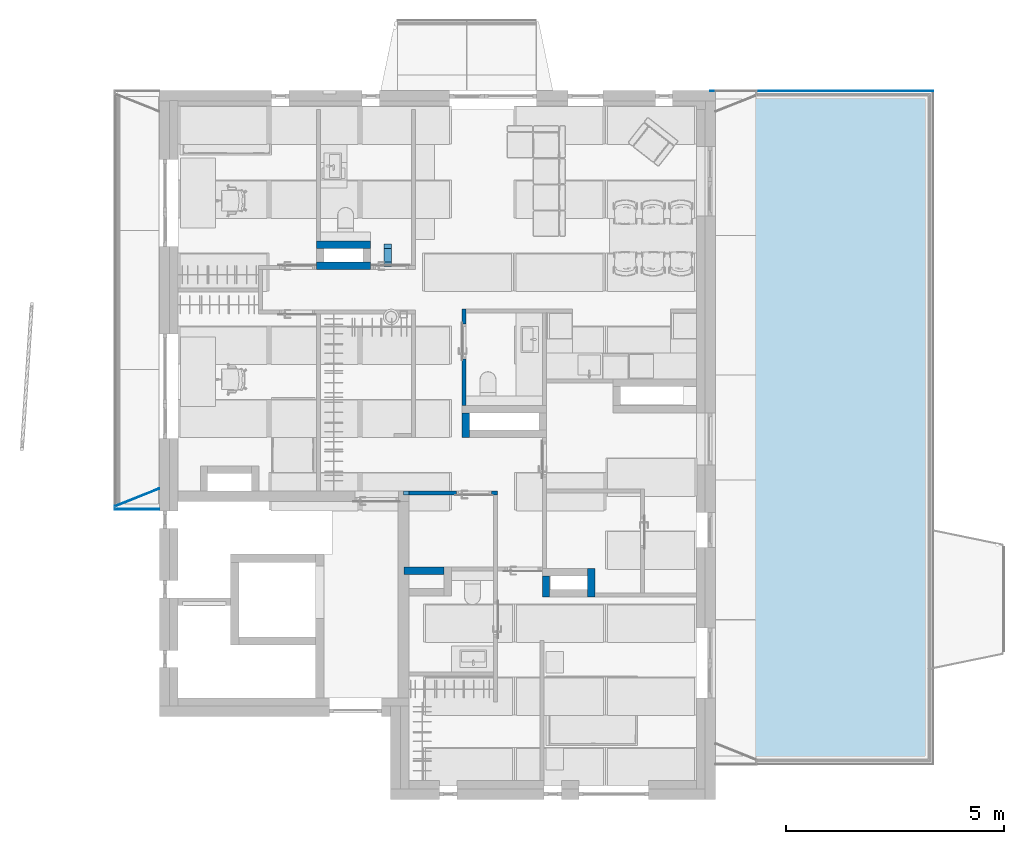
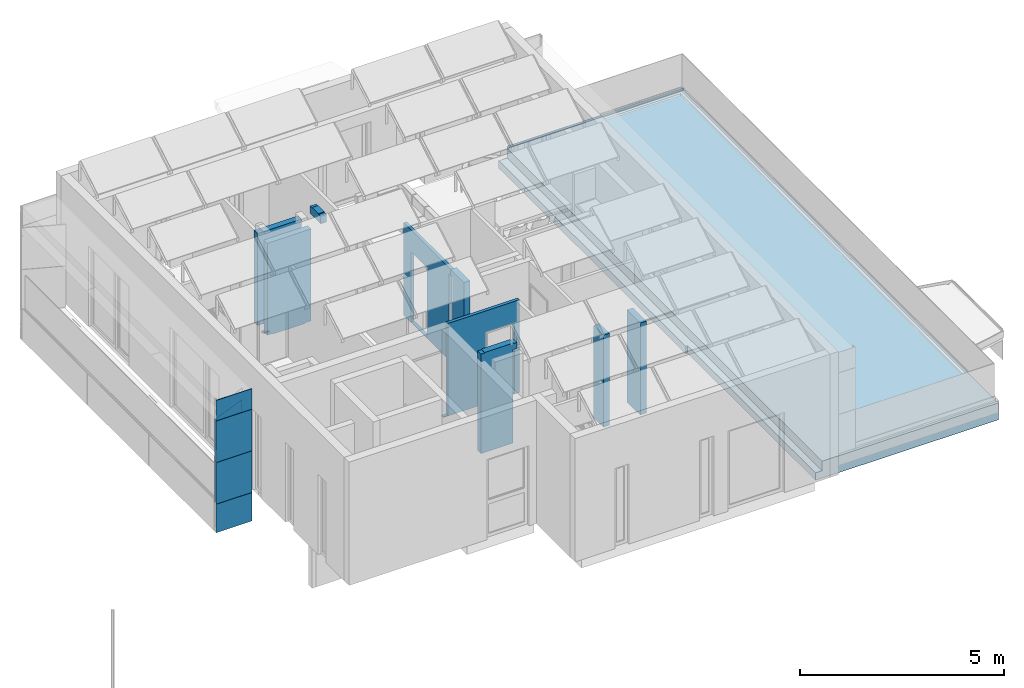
# One storey, part 7 of 57: 12 building element parts, 10 walls, 1 roof, 2 elements without a shape of their own.
"""IFC2X3 building model written with IfcOpenShell, lengths in millimetres."""

from ifc_helpers import new_model, entity, si_unit, converted_unit, direction, frame, frame_2d, origin, origin_2d_with_axis, place, context, subcontext, project, spatial, polyline, rectangle, outline, extrude, faceted_brep, material, layer, layer_set, type_object, element, aggregate, save


model = new_model("IFC2X3")

# Units and contexts
model_context = context("Model", 3, precision=0.01, world=origin(), true_north=direction((6.123233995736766e-17, 1.0)))
plan_context = context("Plan", 3, precision=0.01, world=origin(), true_north=direction((6.123233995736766e-17, 1.0)))
body_context = subcontext(model_context, "Body", "Model", "MODEL_VIEW")
ifc_project = project(units=[si_unit("LENGTHUNIT", "METRE", prefix="MILLI"), converted_unit("PLANEANGLEUNIT", "DEGREE", entity("IfcPlaneAngleMeasure", 0.017453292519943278), si_unit("PLANEANGLEUNIT", "RADIAN"), dimensions=[0, 0, 0, 0, 0, 0, 0]), si_unit("AREAUNIT", "SQUARE_METRE")], contexts=[model_context, plan_context])

# Site, building, storey
site_placement = place(None, origin())
site = spatial("IfcSite", under=ifc_project, at=site_placement, Name="Default", CompositionType="ELEMENT")
building_placement = place(site_placement, origin())
building = spatial("IfcBuilding", under=site, at=building_placement, CompositionType="ELEMENT")
storey_placement = place(building_placement, frame((0.0, 0.0, 12811.000000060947)))
storey = spatial("IfcBuildingStorey", under=building, at=storey_placement, Name="5K", CompositionType="ELEMENT", Elevation=12811.000000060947)

# Walls
ifc_material_1 = material(Name="_K. Ehitusplaat. Kipsplaat. Erikõva")
ifc_layer_1 = layer(ifc_material_1, 13.000000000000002)
ifc_material_2 = material(Name="_K. Soojustus. Mineraalvill")
ifc_layer_2 = layer(ifc_material_2, 66.0)
ifc_layer_3 = layer(ifc_material_1, 13.000000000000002)
ifc_layer_set_1 = layer_set([ifc_layer_1, ifc_layer_2, ifc_layer_3], Name="Basic Wall:SS-401")
wall_type_1 = type_object("IfcWallType", Name="Basic Wall:SS-401", PredefinedType="STANDARD", material=ifc_layer_set_1)
wall_1_placement = place(storey_placement, frame((6566.0, 8525.0, -20.0), z_axis=(0.0, 0.0, 1.0), x_axis=(0.0, 1.0, 0.0)))
element("IfcWall", 1, at=wall_1_placement, inside=storey, type_object=wall_type_1, Name="Basic Wall:SS-401", ObjectType="Basic Wall:SS-401", context=body_context, shape_type="Brep", body=[
    faceted_brep([(85.0, -46.0, 0.0), (2208.0, -46.0, 0.0), (2300.0, -46.0, 0.0), (2300.0, -46.0, 2594.0), (2300.0, -46.0, 2769.998712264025), (0.0, -46.0, 2769.998712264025), (0.0, -46.0, 2593.999923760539), (85.0, -46.0, 2593.999923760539), (1950.0, -46.0, 2120.0), (1950.0, -46.0, 20.0), (1150.0, -46.0, 20.0), (1150.0, -46.0, 2120.0), (2300.0, 46.0, 0.0), (85.0, 46.0, 0.0), (85.0, 46.0, 20.0), (85.0, 46.0, 2593.999923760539), (0.0, 46.0, 2593.999923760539), (0.0, 46.0, 2769.998712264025), (2300.0, 46.0, 2769.998712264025), (1950.0, 46.0, 20.0), (1950.0, 46.0, 2120.0), (1150.0, 46.0, 2120.0), (1150.0, 46.0, 20.0)], [[[0, 1, 2, 3, 4, 5, 6, 7], [8, 9, 10, 11]], [[12, 13, 14, 15, 16, 17, 18], [19, 20, 21, 22]], [[2, 1, 0, 13, 12]], [[5, 4, 18, 17]], [[4, 3, 2, 12, 18]], [[8, 20, 19, 9]], [[9, 19, 22, 10]], [[10, 22, 21, 11]], [[20, 8, 11, 21]], [[5, 17, 16, 6]], [[6, 16, 15, 7]], [[13, 0, 7, 15, 14]]]),
])
wall_2_placement = place(storey_placement, frame((5174.9950608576, 6598.9999594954, -20.0)))
element("IfcWall", 2, at=wall_2_placement, inside=storey, type_object=wall_type_1, Name="Basic Wall:SS-401", ObjectType="Basic Wall:SS-401", context=body_context, shape_type="Brep", body=[
    faceted_brep([(0.0, -46.0, 0.0), (2065.0049391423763, -46.0, 0.0), (2157.004939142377, -46.0, 0.0), (2157.0049391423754, -46.0, 2769.998712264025), (2065.0049391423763, -46.0, 2769.998712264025), (125.0, -46.0, 2769.998712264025), (125.0, -46.0, 20.0), (0.0, -46.0, 20.0), (1215.0049391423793, -46.0, 20.0), (1215.0049391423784, -46.0, 2120.0), (2015.0049391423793, -46.0, 2120.0), (2015.0049391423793, -46.0, 20.0), (2157.004939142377, 46.0, 0.0), (0.0, 46.0, 0.0), (0.0, 46.0, 20.0), (125.0, 46.0, 20.0), (125.0, 46.0, 2769.998712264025), (2157.004939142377, 46.0, 2769.998712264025), (1215.0049391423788, 46.0, 2120.0), (1215.0049391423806, 46.0, 20.0), (2015.0049391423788, 46.0, 20.0), (2015.0049391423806, 46.0, 2120.0)], [[[0, 1, 2, 3, 4, 5, 6, 7], [8, 9, 10, 11]], [[12, 13, 14, 15, 16, 17], [18, 19, 20, 21]], [[2, 1, 0, 13, 12]], [[5, 4, 3, 17, 16]], [[3, 2, 12, 17]], [[18, 9, 8, 19]], [[19, 8, 11, 20]], [[20, 11, 10, 21]], [[9, 18, 21, 10]], [[13, 0, 7, 14]], [[15, 14, 7, 6]], [[5, 16, 15, 6]]]),
])
ifc_material_3 = material(Name="_K. Väisviimistlus. Krohv. Valge")
ifc_layer_4 = layer(ifc_material_3, 10.0)
ifc_material_4 = material(Name="_K. Müüritis. Väikeplokk. Kergkruusplokk")
ifc_layer_5 = layer(ifc_material_4, 150.0)
ifc_layer_6 = layer(ifc_material_3, 10.0)
ifc_layer_set_2 = layer_set([ifc_layer_4, ifc_layer_5, ifc_layer_6], Name="Basic Wall:SS-03. Šahti sein")
wall_type_2 = type_object("IfcWallType", Name="Basic Wall:SS-03. Šahti sein", PredefinedType="STANDARD", material=ifc_layer_set_2)
wall_3_placement = place(storey_placement, frame((3180.0, 12295.0, -20.0)))
element("IfcWall", 3, at=wall_3_placement, inside=storey, type_object=wall_type_2, Name="Basic Wall:SS-03. Šahti sein", ObjectType="Basic Wall:SS-03. Šahti sein", context=body_context, shape_type="Brep", body=[
    faceted_brep([(1240.0, -85.0, 2769.998712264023), (0.0, -85.0, 2769.998712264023), (0.0, -85.0, 20.000076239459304), (170.0, -85.0, 20.000076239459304), (170.0, -85.0, 0.0), (1070.0, -85.0, 0.0), (1070.0, -85.0, 20.000076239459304), (1240.0, -85.0, 20.000076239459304), (0.0, 85.0, 2769.998712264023), (92.0, 85.0, 2769.998712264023), (1240.0, 85.0, 2769.998712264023), (1240.0, 85.0, 20.000076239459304), (1070.0, 85.0, 20.000076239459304), (1070.0, 85.0, 0.0), (170.0, 85.0, 0.0), (170.0, 85.0, 20.000076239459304), (0.0, 85.0, 20.000076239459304)], [[[0, 1, 2, 3, 4, 5, 6, 7]], [[8, 9, 10, 11, 12, 13, 14, 15, 16]], [[1, 0, 10, 9, 8]], [[7, 6, 12, 11]], [[12, 6, 5, 13]], [[0, 7, 11, 10]], [[16, 15, 3, 2]], [[3, 15, 14, 4]], [[2, 1, 8, 16]], [[5, 4, 14, 13]]]),
])
wall_4_placement = place(storey_placement, frame((4815.0, 12315.0, 2750.0), z_axis=(0.0, 0.0, 1.0), x_axis=(0.0, -1.0, 0.0)))
element("IfcWall", 4, at=wall_4_placement, inside=storey, type_object=wall_type_2, Name="Basic Wall:SS-03. Šahti sein", ObjectType="Basic Wall:SS-03. Šahti sein", context=body_context, shape_type="Brep", body=[
    faceted_brep([(0.0, -85.0, 0.0), (520.0, -85.0, 0.0), (520.0, -85.0, 224.99871226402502), (415.0, -85.0, 224.99871226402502), (415.0, -85.0, 244.0), (105.0, -85.0, 244.0), (105.0, -85.0, 224.99871226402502), (0.0, -85.0, 224.99871226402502), (0.0, 85.0, 0.0), (0.0, 85.0, 224.99871226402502), (105.0, 85.0, 224.99871226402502), (105.0, 85.0, 244.0), (415.0, 85.0, 244.0), (415.0, 85.0, 224.99871226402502), (520.0, 85.0, 224.99871226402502), (520.0, 85.0, 0.0)], [[[0, 1, 2, 3, 4, 5, 6, 7]], [[8, 9, 10, 11, 12, 13, 14, 15]], [[1, 0, 8, 15]], [[5, 4, 12, 11]], [[0, 7, 9, 8]], [[6, 10, 9, 7]], [[6, 5, 11, 10]], [[2, 1, 15, 14]], [[13, 3, 2, 14]], [[4, 3, 13, 12]]]),
])
wall_5_placement = place(storey_placement, frame((3180.0, 11815.0, -20.0)))
element("IfcWall", 5, at=wall_5_placement, inside=storey, type_object=wall_type_2, Name="Basic Wall:SS-03. Šahti sein", ObjectType="Basic Wall:SS-03. Šahti sein", context=body_context, shape_type="Brep", body=[
    faceted_brep([(1240.0, -85.0, 2769.998712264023), (0.0, -85.0, 2769.998712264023), (0.0, -85.0, 20.000076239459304), (170.0, -85.0, 20.000076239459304), (170.0, -85.0, 0.0), (1070.0, -85.0, 0.0), (1070.0, -85.0, 20.000076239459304), (1240.0, -85.0, 20.000076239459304), (1240.0, -85.0, 2594.0), (0.0, 85.0, 2769.998712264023), (1240.0, 85.0, 2769.998712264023), (1240.0, 85.0, 20.000076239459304), (1070.0, 85.0, 20.000076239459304), (1070.0, 85.0, 0.0), (170.0, 85.0, 0.0), (170.0, 85.0, 20.000076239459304), (0.0, 85.0, 20.000076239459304), (0.0, 7.0, 2769.998712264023)], [[[0, 1, 2, 3, 4, 5, 6, 7, 8]], [[9, 10, 11, 12, 13, 14, 15, 16]], [[1, 0, 10, 9, 17]], [[7, 6, 12, 11]], [[12, 6, 5, 13]], [[7, 11, 10, 0, 8]], [[16, 15, 3, 2]], [[3, 15, 14, 4]], [[5, 4, 14, 13]], [[16, 2, 1, 17, 9]]]),
])
wall_6_placement = place(storey_placement, frame((6605.0, 8525.0, 0.0), z_axis=(0.0, 0.0, 1.0), x_axis=(0.0, -1.0, 0.0)))
element("IfcWall", 6, at=wall_6_placement, inside=storey, type_object=wall_type_2, Name="Basic Wall:SS-03. Šahti sein", ObjectType="Basic Wall:SS-03. Šahti sein", context=body_context, shape_type="Brep", body=[
    faceted_brep([(85.0, -85.0, 0.0), (655.0, -85.0, 0.0), (655.0, -85.0, 2749.998712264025), (0.0, -85.0, 2749.998712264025), (0.0, -85.0, 2573.999923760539), (85.0, -85.0, 2573.999923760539), (85.0, 85.0, 0.0), (85.0, 85.0, 2573.999923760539), (0.0, 85.0, 2573.999923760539), (0.0, 85.0, 2749.998712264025), (485.0, 85.0, 2749.998712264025), (655.0, 85.0, 2749.998712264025), (655.0, 85.0, 0.0), (485.0, 85.0, 0.0), (0.0, 7.0, 2749.998712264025), (0.0, 7.0, 2573.999923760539)], [[[0, 1, 2, 3, 4, 5]], [[6, 7, 8, 9, 10, 11, 12, 13]], [[1, 0, 6, 13, 12]], [[3, 2, 11, 10, 9, 14]], [[4, 3, 14, 9, 8, 15]], [[4, 15, 8, 7, 5]], [[0, 5, 7, 6]], [[2, 1, 12, 11]]]),
])
wall_7_placement = place(storey_placement, frame((9485.0, 4870.0, -20.0), z_axis=(0.0, 0.0, 1.0), x_axis=(0.0, -1.0, 0.0)))
element("IfcWall", 7, at=wall_7_placement, inside=storey, type_object=wall_type_2, Name="Basic Wall:SS-03. Šahti sein", ObjectType="Basic Wall:SS-03. Šahti sein", context=body_context, shape_type="Brep", body=[
    faceted_brep([(660.0, -85.0, 2769.998712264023), (170.0, -85.0, 2769.998712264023), (0.0, -85.0, 2769.998712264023), (0.0, -85.0, 0.0), (170.0, -85.0, 0.0), (490.0, -85.0, 0.0), (490.0, -85.0, 20.000076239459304), (660.0, -85.0, 20.000076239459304), (0.0, 85.0, 2769.998712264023), (568.0, 85.0, 2769.998712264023), (660.0, 85.0, 2769.998712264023), (660.0, 85.0, 20.000076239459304), (490.0, 85.0, 20.000076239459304), (490.0, 85.0, 0.0), (0.0, 85.0, 0.0)], [[[0, 1, 2, 3, 4, 5, 6, 7]], [[8, 9, 10, 11, 12, 13, 14]], [[2, 1, 0, 10, 9, 8]], [[7, 6, 12, 11]], [[12, 6, 5, 13]], [[7, 11, 10, 0]], [[2, 8, 14, 3]], [[5, 4, 3, 14, 13]]]),
])
wall_8_placement = place(storey_placement, frame((8443.0, 4700.0, -20.0), z_axis=(0.0, 0.0, 1.0), x_axis=(0.0, -1.0, 0.0)))
element("IfcWall", 8, at=wall_8_placement, inside=storey, type_object=wall_type_2, Name="Basic Wall:SS-03. Šahti sein", ObjectType="Basic Wall:SS-03. Šahti sein", context=body_context, shape_type="Brep", body=[
    faceted_brep([(490.0, -85.0, 2769.998712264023), (0.0, -85.0, 2769.998712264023), (0.0, -85.0, 0.0), (320.0, -85.0, 0.0), (320.0, -85.0, 20.000076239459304), (490.0, -85.0, 20.000076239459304), (0.0, 85.0, 2769.998712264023), (490.0, 85.0, 2769.998712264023), (490.0, 85.0, 20.000076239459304), (320.0, 85.0, 20.000076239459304), (320.0, 85.0, 0.0), (0.0, 85.0, 0.0)], [[[0, 1, 2, 3, 4, 5]], [[6, 7, 8, 9, 10, 11]], [[1, 0, 7, 6]], [[5, 4, 9, 8]], [[9, 4, 3, 10]], [[5, 8, 7, 0]], [[3, 2, 11, 10]], [[1, 6, 11, 2]]]),
])
wall_9_placement = place(storey_placement, frame((5189.997197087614, 4815.0, 0.0)))
element("IfcWall", 9, at=wall_9_placement, inside=storey, type_object=wall_type_2, Name="Basic Wall:SS-03. Šahti sein", ObjectType="Basic Wall:SS-03. Šahti sein", context=body_context, shape_type="Brep", body=[
    faceted_brep([(0.0, -85.0, 0.0), (109.99786376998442, -85.0, 0.0), (910.0, -85.0, 0.0), (910.0, -85.0, 2793.9987344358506), (1015.0, -85.0, 2793.9987344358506), (1015.0, -85.0, 2974.998712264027), (910.0, -85.0, 2974.998712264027), (910.0, -85.0, 2994.0), (105.0, -85.0, 2994.0), (105.0, -85.0, 2974.998712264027), (0.0, -85.0, 2974.998712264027), (0.0, 85.0, 0.0), (0.0, 85.0, 2974.998712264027), (105.0, 85.0, 2974.998712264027), (105.0, 85.0, 2994.0), (910.0, 85.0, 2994.0), (910.0, 85.0, 2974.998712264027), (1015.0, 85.0, 2974.998712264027), (1015.0, 85.0, 2793.9987344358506), (910.0, 85.0, 2793.9987344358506), (910.0, 85.0, 2749.998712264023), (910.0, 85.0, 0.0), (109.99786376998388, 85.0, 0.0)], [[[0, 1, 2, 3, 4, 5, 6, 7, 8, 9, 10]], [[11, 12, 13, 14, 15, 16, 17, 18, 19, 20, 21, 22]], [[2, 1, 0, 11, 22, 21]], [[8, 7, 15, 14]], [[0, 10, 12, 11]], [[9, 13, 12, 10]], [[9, 8, 14, 13]], [[18, 4, 3, 19]], [[5, 4, 18, 17]], [[16, 6, 5, 17]], [[3, 2, 21, 20, 19]], [[7, 6, 16, 15]]]),
])
ifc_layer_7 = layer(ifc_material_3, 10.0)
ifc_layer_set_3 = layer_set([ifc_layer_7], Name="Basic Wall:VS-01 krohv")
wall_type_3 = type_object("IfcWallType", Name="Basic Wall:VS-01 krohv", PredefinedType="STANDARD", material=ifc_layer_set_3)
wall_10_placement = place(storey_placement, frame((12210.0, 15825.0, -375.625832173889)))
element("IfcWall", 10, at=wall_10_placement, inside=storey, type_object=wall_type_3, Name="Basic Wall:VS-01 krohv", ObjectType="Basic Wall:VS-01 krohv", context=body_context, shape_type="Brep", body=[
    faceted_brep([(0.0, -5.0, 0.0), (5110.0, -5.0, 0.0), (5120.0, -5.0, 0.0), (5120.0, -5.0, 350.625832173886), (5110.0, -5.0, 350.625832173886), (120.0, -5.0, 350.625832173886), (120.0, -5.0, 4.62597707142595), (0.0, -5.0, 4.62597707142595), (0.0, 5.0, 0.0), (0.0, 5.0, 4.62597707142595), (120.0, 5.0, 4.62597707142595), (120.0, 5.0, 350.625832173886), (5120.0, 5.0, 350.625832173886), (5120.0, 5.0, 0.0)], [[[0, 1, 2, 3, 4, 5, 6, 7]], [[8, 9, 10, 11, 12, 13]], [[2, 1, 0, 8, 13]], [[5, 4, 3, 12, 11]], [[0, 7, 9, 8]], [[6, 10, 9, 7]], [[6, 5, 11, 10]], [[3, 2, 13, 12]]]),
])

# Roof
ifc_material_5 = material(Name="_K. Katusekate. Rullmaterjal. PVC(1)")
ifc_layer_8 = layer(ifc_material_5, 2.0)
ifc_material_6 = material(Name="_K. Betoon. Armeeritud. Kohtvalu")
ifc_layer_9 = layer(ifc_material_6, 80.0)
ifc_material_7 = material(Name="_K. Soojustus. EPS")
ifc_layer_10 = layer(ifc_material_7, 50.0)
ifc_layer_11 = layer(ifc_material_7, 150.0)
ifc_material_8 = material(Name="_K. Aurutõke. Rullmaterjal. SBS")
ifc_layer_12 = layer(ifc_material_8, 5.0)
ifc_material_9 = material(Name="_K. Betoon. Armeeritud. Monteeritav")
ifc_layer_13 = layer(ifc_material_9, 220.0)
ifc_layer_set_4 = layer_set([ifc_layer_8, ifc_layer_9, ifc_layer_10, ifc_layer_11, ifc_layer_12, ifc_layer_13], Name="Basic Roof:KL-02")
type_product = type_object("IfcTypeProduct", Name="Basic Roof:KL-02")
roof_placement = place(storey_placement, frame((12089.993534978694, 380.0, -595.9998551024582)))
element("IfcRoof", 11, at=roof_placement, inside=storey, type_object=type_product, material=ifc_layer_set_4, Name="Basic Roof:KL-02", ObjectType="Basic Roof:KL-02", ShapeType="NOTDEFINED", context=body_context, shape_type="Brep", body=[
    faceted_brep([(0.0, 15440.0, 0.0), (5230.00646502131, 15440.0, 0.0), (5230.00646502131, 0.0, 0.0), (55.0, 0.0, 0.0), (55.0, 6264.999959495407, 0.0), (0.0, 6264.999959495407, 0.0), (5230.00646502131, 0.0, 507.0), (5230.00646502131, 15440.0, 507.0), (240.0064650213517, 15440.0, 507.0), (240.00646502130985, 0.0, 507.0), (0.0, 15440.0, 225.0), (240.0064650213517, 15440.0, 225.0), (55.0, 0.0, 225.0), (55.0, 325.0, 225.0), (55.0, 6024.999959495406, 225.0), (55.0, 6264.999959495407, 225.0), (240.00646502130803, 0.0, 225.0), (0.0, 6264.999959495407, 225.0)], [[[0, 1, 2, 3, 4, 5]], [[6, 7, 8, 9]], [[1, 0, 10, 11, 8, 7]], [[4, 3, 12, 13, 14, 15]], [[3, 2, 6, 9, 16, 12]], [[2, 1, 7, 6]], [[0, 5, 17, 10]], [[5, 4, 15, 17]], [[11, 16, 9, 8]], [[16, 11, 10, 17, 15, 14, 13, 12]]]),
])

# Wall, building element parts
wall_type_4 = type_object("IfcWallType", Name="Basic Wall:VS-komposiit", PredefinedType="STANDARD")
wall_11_placement = place(storey_placement, frame((-433.7143336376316, 6698.9415262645, -946.0), z_axis=(0.0, 0.0, 1.0), x_axis=(-0.9284596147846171, -0.37143336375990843, 0.0)))
wall_11 = element("IfcWall", 12, at=wall_11_placement, inside=storey, type_object=wall_type_4, Name="Basic Wall:VS-komposiit", ObjectType="Basic Wall:VS-komposiit")
ifc_material_10 = material(Name="_K. Õhk. Roov. Fassaadikatte alusroov. Horisontaalne. 25 mm")
building_element_part_1_placement = place(wall_11_placement, origin())
building_element_part_1 = element("IfcBuildingElementPart", 13, at=building_element_part_1_placement, material=ifc_material_10, Name="Part", context=body_context, shape_type="SweptSolid", body=[
    extrude(outline(polyline([(194.21632521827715, -507.01426654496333), (211.4491695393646, -507.01426654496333), (-195.4050704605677, 509.98573345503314), (-210.2604242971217, 504.0427996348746), (194.21632521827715, -507.01426654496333)])), frame((546.0811202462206, 2.0, 2101.0), z_axis=(0.0, 0.0, 1.0), x_axis=(0.37143336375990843, 0.9284596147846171, 0.0)), (0.0, 0.0, 1.0), 1240.0000000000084),
])
building_element_part_2_placement = place(wall_11_placement, origin())
building_element_part_2 = element("IfcBuildingElementPart", 14, at=building_element_part_2_placement, material=ifc_material_10, Name="Part", context=body_context, shape_type="SweptSolid", body=[
    extrude(outline(polyline([(194.2163252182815, -507.01426654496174), (211.44916953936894, -507.01426654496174), (-195.4050704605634, 509.98573345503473), (-210.26042429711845, 504.0427996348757), (194.2163252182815, -507.01426654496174)])), frame((546.0811202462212, 2.0, 856.0), z_axis=(0.0, 0.0, 1.0), x_axis=(0.37143336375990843, 0.9284596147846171, 0.0)), (0.0, 0.0, 1.0), 1240.0000000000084),
])
ifc_material_11 = material(Name="_K. Välisviimistlus. Alumiinium-komposiitplaat")
building_element_part_3_placement = place(wall_11_placement, origin())
building_element_part_3 = element("IfcBuildingElementPart", 15, at=building_element_part_3_placement, material=ifc_material_11, Name="Part", context=body_context, shape_type="SweptSolid", body=[
    extrude(outline(polyline([(200.7357827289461, -507.15709972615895), (205.0439938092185, -507.15709972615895), (-201.0329690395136, 507.8999664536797), (-204.74680749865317, 506.414232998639), (200.7357827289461, -507.15709972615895)])), frame((546.234959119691, -8.0, 2101.0), z_axis=(0.0, 0.0, 1.0), x_axis=(0.37143336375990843, 0.9284596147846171, 0.0)), (0.0, 0.0, 1.0), 1240.0000000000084),
])
building_element_part_4_placement = place(wall_11_placement, origin())
building_element_part_4 = element("IfcBuildingElementPart", 16, at=building_element_part_4_placement, material=ifc_material_11, Name="Part", context=body_context, shape_type="SweptSolid", body=[
    extrude(outline(polyline([(200.73578272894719, -507.15709972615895), (205.0439938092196, -507.15709972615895), (-201.03296903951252, 507.8999664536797), (-204.7468074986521, 506.414232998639), (200.73578272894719, -507.15709972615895)])), frame((546.2349591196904, -8.0, 856.0), z_axis=(0.0, 0.0, 1.0), x_axis=(0.37143336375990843, 0.9284596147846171, 0.0)), (0.0, 0.0, 1.0), 1240.0000000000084),
])
aggregate(wall_11, [building_element_part_1, building_element_part_2, building_element_part_3, building_element_part_4])

wall_12_placement = place(storey_placement, frame((-1451.0, 6227.983411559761, -945.9999237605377)))
wall_12 = element("IfcWall", 17, at=wall_12_placement, inside=storey, type_object=wall_type_4, Name="Basic Wall:VS-komposiit", ObjectType="Basic Wall:VS-komposiit")
building_element_part_5_placement = place(wall_12_placement, origin())
building_element_part_5 = element("IfcBuildingElementPart", 18, at=building_element_part_5_placement, material=ifc_material_11, Name="Part", context=body_context, shape_type="SweptSolid", body=[
    extrude(rectangle(XDim=4.000000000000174, YDim=1015.9999999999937, at=frame_2d((-5.415667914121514e-13, 1.4210854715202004e-13), x_axis=(1.0, 0.0))), frame((508.0, -8.0, 0.0), z_axis=(0.0, 0.0, 1.0), x_axis=(0.0, -1.0, 0.0)), (0.0, 0.0, 1.0), 850.9999237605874),
])
building_element_part_6_placement = place(wall_12_placement, origin())
building_element_part_6 = element("IfcBuildingElementPart", 19, at=building_element_part_6_placement, material=ifc_material_10, Name="Part", context=body_context, shape_type="SweptSolid", body=[
    extrude(rectangle(XDim=15.999999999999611, YDim=1011.9999999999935, at=frame_2d((0.0, 1.4210854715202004e-13), x_axis=(1.0, 0.0))), frame((510.0, 2.0, 0.0), z_axis=(0.0, 0.0, 1.0), x_axis=(0.0, -1.0, 0.0)), (0.0, 0.0, 1.0), 850.9999237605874),
])
building_element_part_7_placement = place(wall_12_placement, origin())
building_element_part_7 = element("IfcBuildingElementPart", 20, at=building_element_part_7_placement, material=ifc_material_10, Name="Part", context=body_context, shape_type="SweptSolid", body=[
    extrude(rectangle(XDim=15.999999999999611, YDim=1011.9999999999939, at=origin_2d_with_axis()), frame((510.0, 2.0, 855.9999237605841), z_axis=(0.0, 0.0, 1.0), x_axis=(0.0, -1.0, 0.0)), (0.0, 0.0, 1.0), 1240.000000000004),
])
building_element_part_8_placement = place(wall_12_placement, origin())
building_element_part_8 = element("IfcBuildingElementPart", 21, at=building_element_part_8_placement, material=ifc_material_10, Name="Part", context=body_context, shape_type="SweptSolid", body=[
    extrude(rectangle(XDim=15.999999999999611, YDim=1011.9999999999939, at=frame_2d((0.0, -1.4210854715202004e-13), x_axis=(1.0, 0.0))), frame((510.0, 2.0, 3345.9999237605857), z_axis=(0.0, 0.0, 1.0), x_axis=(0.0, -1.0, 0.0)), (0.0, 0.0, 1.0), 614.999999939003),
])
building_element_part_9_placement = place(wall_12_placement, origin())
building_element_part_9 = element("IfcBuildingElementPart", 22, at=building_element_part_9_placement, material=ifc_material_10, Name="Part", context=body_context, shape_type="SweptSolid", body=[
    extrude(rectangle(XDim=15.999999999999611, YDim=1011.9999999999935, at=frame_2d((0.0, 1.4210854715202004e-13), x_axis=(1.0, 0.0))), frame((510.0, 2.0, 2100.999923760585), z_axis=(0.0, 0.0, 1.0), x_axis=(0.0, -1.0, 0.0)), (0.0, 0.0, 1.0), 1240.000000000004),
])
building_element_part_10_placement = place(wall_12_placement, origin())
building_element_part_10 = element("IfcBuildingElementPart", 23, at=building_element_part_10_placement, material=ifc_material_11, Name="Part", context=body_context, shape_type="SweptSolid", body=[
    extrude(rectangle(XDim=4.000000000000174, YDim=1015.9999999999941, at=frame_2d((-5.415667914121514e-13, 0.0), x_axis=(1.0, 0.0))), frame((508.0, -8.0, 855.9999237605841), z_axis=(0.0, 0.0, 1.0), x_axis=(0.0, -1.0, 0.0)), (0.0, 0.0, 1.0), 1240.000000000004),
])
building_element_part_11_placement = place(wall_12_placement, origin())
building_element_part_11 = element("IfcBuildingElementPart", 24, at=building_element_part_11_placement, material=ifc_material_11, Name="Part", context=body_context, shape_type="SweptSolid", body=[
    extrude(rectangle(XDim=4.000000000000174, YDim=1015.9999999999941, at=frame_2d((-5.415667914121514e-13, -1.4210854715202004e-13), x_axis=(1.0, 0.0))), frame((508.0, -8.0, 3345.9999237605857), z_axis=(0.0, 0.0, 1.0), x_axis=(0.0, -1.0, 0.0)), (0.0, 0.0, 1.0), 614.999999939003),
])
building_element_part_12_placement = place(wall_12_placement, origin())
building_element_part_12 = element("IfcBuildingElementPart", 25, at=building_element_part_12_placement, material=ifc_material_11, Name="Part", context=body_context, shape_type="SweptSolid", body=[
    extrude(rectangle(XDim=4.000000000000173, YDim=1015.9999999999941, at=frame_2d((5.415667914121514e-13, 0.0), x_axis=(1.0, 0.0))), frame((508.0, -8.0, 2100.999923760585), z_axis=(0.0, 0.0, 1.0), x_axis=(0.0, -1.0, 0.0)), (0.0, 0.0, 1.0), 1240.000000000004),
])
aggregate(wall_12, [building_element_part_5, building_element_part_6, building_element_part_7, building_element_part_8, building_element_part_9, building_element_part_10, building_element_part_11, building_element_part_12])

save(model, "model.ifc")
